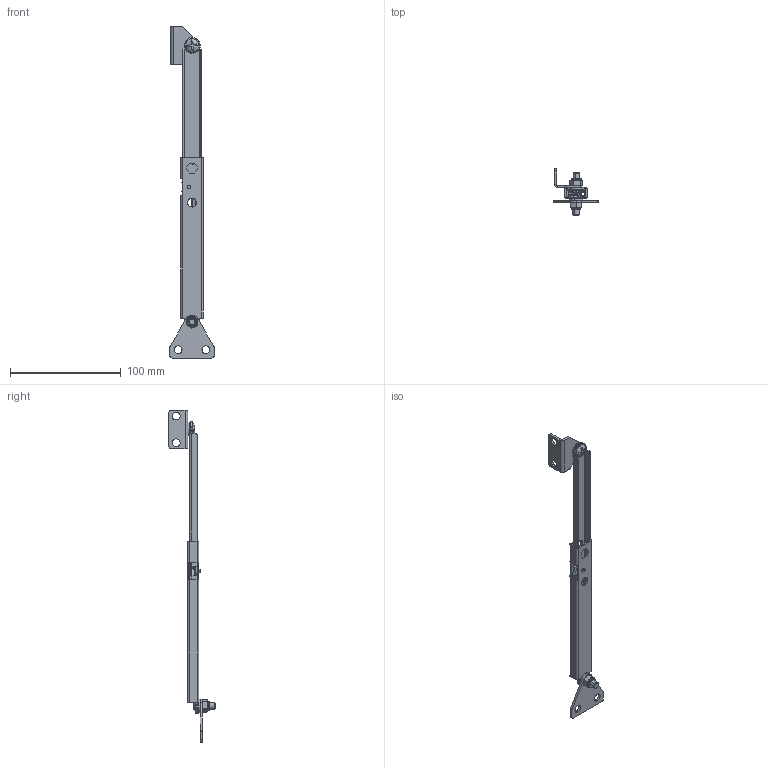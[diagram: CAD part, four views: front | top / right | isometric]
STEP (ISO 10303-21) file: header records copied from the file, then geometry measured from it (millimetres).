
FILE_DESCRIPTION (( 'STEP AP214' ), '1' );
FILE_NAME ('4.401.106.STEP', '2016-09-09T06:56:26', ( '' ), ( '' ), 'SwSTEP 2.0', 'SolidWorks 2015', '' );
FILE_SCHEMA (( 'AUTOMOTIVE_DESIGN' ));
Length unit declared in the file: millimetre
Products named in the file (11): 4.401.106.02_A; 4.401.106.01_A; M6x16-DIN 967_M6x16; M6-DIN985_M6; Podk³adka M6_M6; 4.401.105.03_A; 4.401.105.04_A; 4.401.105.07_A; 4.401.105.05_A; 4.401.105.06_A; 4.401.106
Assembly tree (13 placements, depth 2):
  4.401.106
    4.401.105.06_A
    4.401.105.05_A
    4.401.105.07_A
    4.401.105.04_A
    4.401.105.03_A
    Podk³adka M6_M6  x2
    M6-DIN985_M6  x2
    M6x16-DIN 967_M6x16  x2
    4.401.106.01_A
    4.401.106.02_A
Bounding box: 40 x 41.5 x 299.1 mm (x, y, z)
Volume: 19724.4 mm3; surface area: 30946.9 mm2
Topology: 13 solids, 13 shells, 350 faces, 846 edges, 528 vertices
Faces by surface type: plane 187, cylinder 107, cone 32, torus 20, sphere 4
Entity records: 8624 total; most frequent: CARTESIAN_POINT 1495, DIRECTION 1470, ORIENTED_EDGE 1336, EDGE_CURVE 668, AXIS2_PLACEMENT_3D 537, VERTEX_POINT 418, VECTOR 396, LINE 396
